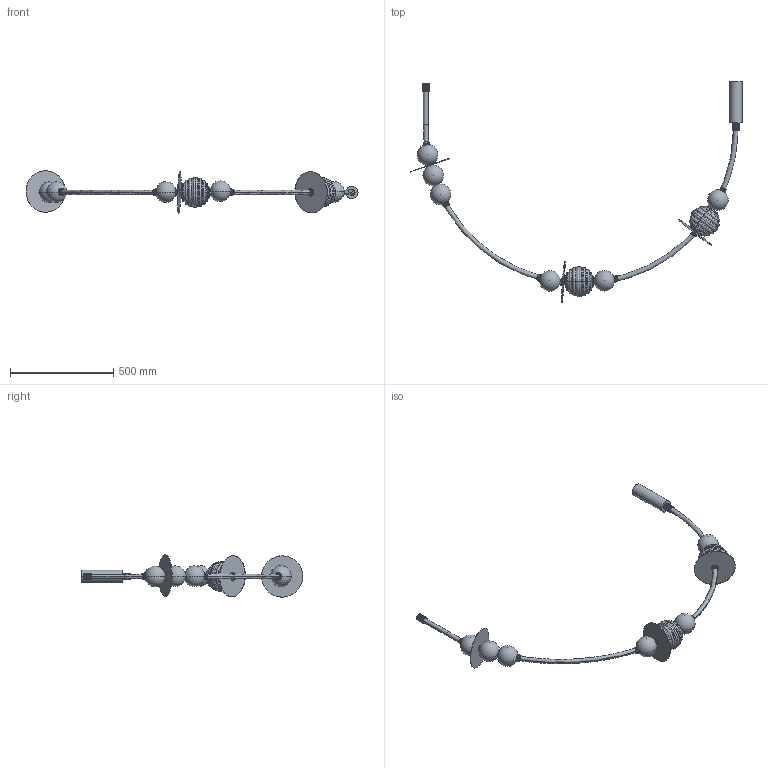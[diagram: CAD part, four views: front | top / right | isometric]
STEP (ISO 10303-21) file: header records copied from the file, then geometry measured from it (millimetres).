
FILE_DESCRIPTION (( 'STEP AP214' ), '1' );
FILE_NAME ('Ensamblaje_YMA_H.STEP', '2026-02-11T15:47:46', ( '' ), ( '' ), 'SwSTEP 2.0', 'SolidWorks 2023', '' );
FILE_SCHEMA (( 'AUTOMOTIVE_DESIGN' ));
Length unit declared in the file: millimetre
Products named in the file (6): BOLA 10; Ensamblaje_YMA_H; BOLA RIZADA 14; Pieza3; DISCO 20; YMA_C1347_H EDIT
Assembly tree (19 placements, depth 2):
  Ensamblaje_YMA_H
    YMA_C1347_H EDIT
    Pieza3  x7
    BOLA 10  x6
    DISCO 20  x3
    BOLA RIZADA 14  x2
Bounding box: 1606.68 x 1072.23 x 204.35 mm (x, y, z)
Volume: 7843365.4 mm3; surface area: 778345 mm2
Topology: 20 solids, 20 shells, 610 faces, 1584 edges, 996 vertices
Faces by surface type: plane 327, torus 112, cylinder 107, cone 50, sphere 12, bspline 2
Entity records: 15495 total; most frequent: CARTESIAN_POINT 3599, DIRECTION 2476, ORIENTED_EDGE 2452, EDGE_CURVE 1226, VECTOR 896, LINE 896, VERTEX_POINT 796, AXIS2_PLACEMENT_3D 790
